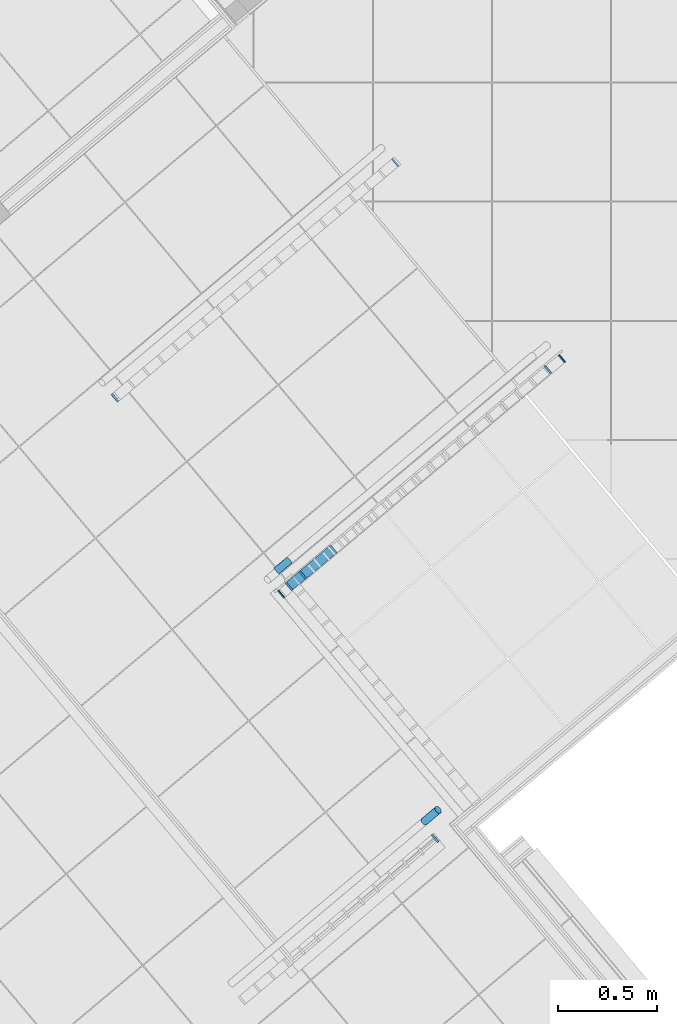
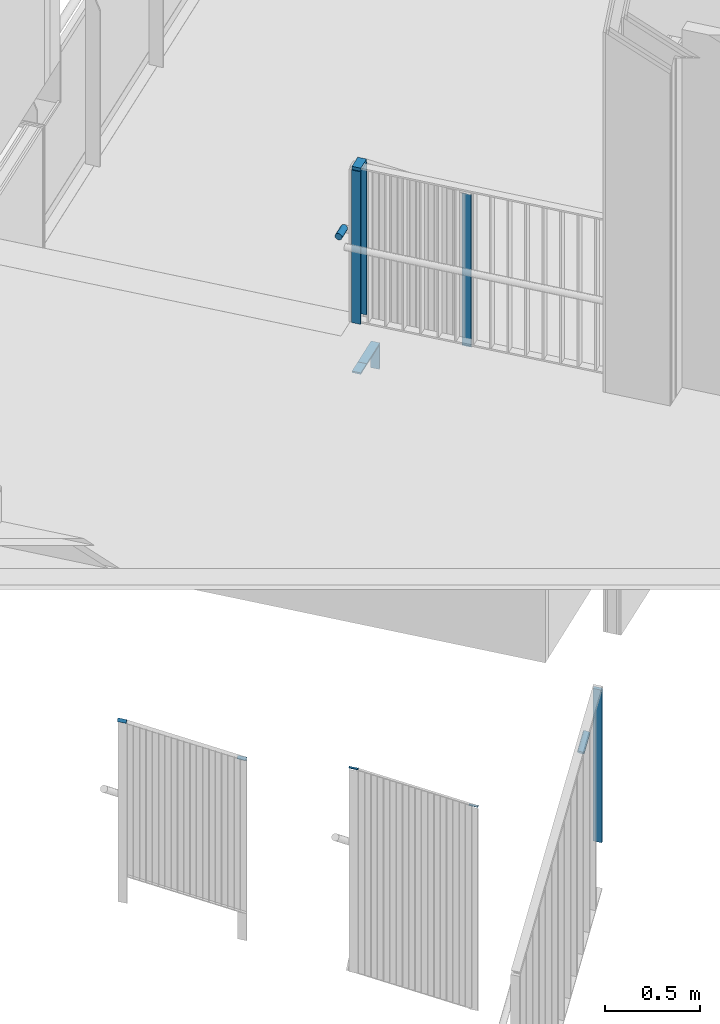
# One storey, part 35 of 321: 13 members, 4 elements without a shape of their own.
"""IFC2X3 building model written with IfcOpenShell, lengths in millimetres."""

from ifc_helpers import new_model, entity, si_unit, converted_unit, derived_unit, money_unit, direction, frame, origin_with_axes, place, context, subcontext, project, spatial, faceted_brep, material, type_object, element, aggregate, save


model = new_model("IFC2X3")

# Units and contexts
model_context = context("Model", 3, precision=0.01, world=origin_with_axes(), true_north=direction((0.0, 1.0)))
plan_context = context("Plan", 3, precision=0.01, world=origin_with_axes(), true_north=direction((0.0, 1.0)))
body_context = subcontext(model_context, "Body", "Model", "MODEL_VIEW")
ifc_project = project(units=[si_unit("LENGTHUNIT", "METRE", prefix="MILLI"), si_unit("AREAUNIT", "SQUARE_METRE"), si_unit("VOLUMEUNIT", "CUBIC_METRE"), converted_unit("PLANEANGLEUNIT", "DEGREE", entity("IfcPlaneAngleMeasure", 0.0174532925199), si_unit("PLANEANGLEUNIT", "RADIAN"), dimensions=[0, 0, 0, 0, 0, 0, 0]), money_unit("EUR"), converted_unit("TIMEUNIT", "Year", entity("IfcTimeMeasure", 31556926.0), si_unit("TIMEUNIT", "SECOND"), dimensions=[0, 0, 1, 0, 0, 0, 0]), si_unit("MASSUNIT", "GRAM", prefix="KILO"), si_unit("THERMODYNAMICTEMPERATUREUNIT", "DEGREE_CELSIUS"), si_unit("LUMINOUSINTENSITYUNIT", "LUMEN"), si_unit("ENERGYUNIT", "JOULE", prefix="MEGA"), derived_unit("THERMALCONDUCTANCEUNIT", [(si_unit("POWERUNIT", "WATT"), 1), (si_unit("LENGTHUNIT", "METRE"), -1), (si_unit("THERMODYNAMICTEMPERATUREUNIT", "KELVIN"), -1)]), derived_unit("SPECIFICHEATCAPACITYUNIT", [(si_unit("ENERGYUNIT", "JOULE"), 1), (si_unit("MASSUNIT", "GRAM", prefix="KILO"), -1), (si_unit("THERMODYNAMICTEMPERATUREUNIT", "KELVIN"), -1)]), derived_unit("MASSDENSITYUNIT", [(si_unit("MASSUNIT", "GRAM", prefix="KILO"), 1), (si_unit("VOLUMEUNIT", "CUBIC_METRE"), -1)])], contexts=[model_context, plan_context])

# Site, building, storey
site_placement = place(None, origin_with_axes())
site = spatial("IfcSite", under=ifc_project, at=site_placement, Name="Fortuinstraat Woensdrecht", CompositionType="ELEMENT")
building_placement = place(site_placement, origin_with_axes())
building = spatial("IfcBuilding", under=site, at=building_placement, Name="IKC Fortuna", CompositionType="ELEMENT")
storey_placement = place(building_placement, frame((0.0, 0.0, 4000.0), z_axis=(0.0, 0.0, 1.0), x_axis=(1.0, 0.0, 0.0)))
storey = spatial("IfcBuildingStorey", under=building, at=storey_placement, Name="01 eerste verdieping", CompositionType="ELEMENT", Elevation=4000.0)

# Railing, members
railing_type = type_object("IfcRailingType", Name="Railing Type", PredefinedType="NOTDEFINED")
railing_1_placement = place(storey_placement, frame((21000.2167355, 3077.07880334, -3818.75), z_axis=(0.0, 0.0, 1.0), x_axis=(1.0, 0.0, 0.0)))
railing_1 = element("IfcRailing", 1, at=railing_1_placement, inside=storey, type_object=railing_type, Name="34_Reling_Trapleuning", PredefinedType="NOTDEFINED")
ifc_material = material(Name="Metaal - RVS")
member_type_1 = type_object("IfcMemberType", Name="IfcMember", PredefinedType="USERDEFINED")
member_1_placement = place(railing_1_placement, origin_with_axes())
member_1 = element("IfcMember", 2, at=member_1_placement, type_object=member_type_1, material=ifc_material, Name="_Reling - regel_", context=body_context, shape_type="Brep", body=[
    faceted_brep([(38.5672565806, -45.9626665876, 1000.0), (33.8258089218, -49.9412135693, 992.145712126), (36.8341757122, -47.416894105, 989.050951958), (41.5756233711, -43.4383471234, 996.905239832), (6.42787609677, -7.66044443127, 1000.0), (1.68642843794, -11.6389914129, 992.145712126), (4.69479522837, -9.11467194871, 989.050951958), (9.4362428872, -5.13612496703, 996.905239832)], [[[0, 1, 2, 3]], [[0, 4, 5, 1]], [[1, 5, 6, 2]], [[3, 2, 6, 7]], [[4, 0, 3, 7]], [[5, 4, 7, 6]]]),
])
member_2_placement = place(railing_1_placement, origin_with_axes())
member_2 = element("IfcMember", 3, at=member_2_placement, type_object=member_type_1, material=ifc_material, Name="_Reling - regel_", context=body_context, shape_type="Brep", body=[
    faceted_brep([(-1403.07363658, -1190.37264384, 2449.97915543), (-1407.81508424, -1194.35119082, 2442.12486756), (-1410.82345103, -1196.87551028, 2445.21962772), (-1406.08200338, -1192.8969633, 2453.0739156), (-1370.9342561, -1228.67486599, 2449.97915543), (-1375.67570376, -1232.65341298, 2442.12486756), (-1378.68407055, -1235.17773244, 2445.21962772), (-1373.94262289, -1231.19918546, 2453.0739156)], [[[0, 1, 2, 3]], [[0, 4, 5, 1]], [[1, 5, 6, 2]], [[3, 2, 6, 7]], [[4, 0, 3, 7]], [[5, 4, 7, 6]]]),
])
aggregate(railing_1, [member_1, member_2])

# Railing, member
railing_2_placement = place(storey_placement, frame((19473.0503372, -83.5297075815, -2367.85714286), z_axis=(0.0, 0.0, 1.0), x_axis=(1.0, 0.0, 0.0)))
railing_2 = element("IfcRailing", 4, at=railing_2_placement, inside=storey, type_object=railing_type, Name="34_Reling_Trapleuning", PredefinedType="NOTDEFINED")
member_3_placement = place(railing_2_placement, origin_with_axes())
member_3 = element("IfcMember", 5, at=member_3_placement, type_object=member_type_1, material=ifc_material, Name="_Reling - regel_", context=body_context, shape_type="Brep", body=[
    faceted_brep([(842.799217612, 818.152132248, 1538.19212525), (841.342847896, 816.533451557, 1540.91474488), (911.473008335, 875.379643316, 1613.41427213), (912.929378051, 876.998324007, 1610.6916525), (844.646202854, 819.305295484, 1535.46950562), (846.827683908, 819.957902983, 1532.82961141), (849.277377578, 820.090125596, 1530.35265446), (851.92085116, 819.697945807, 1528.11389587), (854.677784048, 818.7932798, 1526.18135918), (857.46440823, 817.403615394, 1524.61376354), (860.196053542, 815.571176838, 1523.45873955), (862.789720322, 813.351641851, 1522.75138203), (865.166601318, 810.81244988, 1522.51318368), (867.254476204, 808.030752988, 1522.75138203), (868.989905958, 805.091071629, 1523.45873955), (870.320160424, 802.082726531, 1524.61376354), (871.204820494, 799.09712474, 1526.18135918), (871.61700622, 796.224982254, 1528.11389587), (871.544193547, 793.553567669, 1530.35265446), (870.98859485, 791.164050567, 1532.82961141), (869.967091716, 789.129035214, 1535.46950562), (868.510722, 787.510354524, 1538.19212525), (866.663736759, 786.357191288, 1540.91474488), (864.482255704, 785.704583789, 1543.5546391), (862.032562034, 785.572361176, 1546.03159604), (859.389088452, 785.964540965, 1548.27035463), (856.632155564, 786.869206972, 1550.20289132), (853.845531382, 788.258871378, 1551.77048696), (851.11388607, 790.091309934, 1552.92551095), (848.52021929, 792.310844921, 1553.63286847), (846.143338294, 794.850036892, 1553.87106683), (844.055463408, 797.631733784, 1553.63286847), (842.320033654, 800.571415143, 1552.92551095), (840.989779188, 803.579760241, 1551.77048696), (840.105119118, 806.565362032, 1550.20289132), (839.692933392, 809.437504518, 1548.27035463), (839.765746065, 812.108919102, 1546.03159604), (840.321344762, 814.498436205, 1543.5546391), (910.451505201, 873.344627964, 1616.05416634), (909.895906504, 870.955110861, 1618.53112328), (909.823093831, 868.283696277, 1620.76988187), (910.235279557, 865.411553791, 1622.70241856), (911.119939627, 862.425951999, 1624.2700142), (912.450194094, 859.417606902, 1625.4250382), (914.185623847, 856.477925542, 1626.13239572), (916.273498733, 853.696228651, 1626.37059407), (918.650379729, 851.15703668, 1626.13239572), (921.244046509, 848.937501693, 1625.4250382), (923.975691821, 847.105063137, 1624.2700142), (926.762316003, 845.715398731, 1622.70241856), (929.519248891, 844.810732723, 1620.76988187), (932.162722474, 844.418552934, 1618.53112328), (934.612416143, 844.550775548, 1616.05416634), (936.793897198, 845.203383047, 1613.41427213), (938.640882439, 846.356546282, 1610.6916525), (940.097252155, 847.975226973, 1607.96903286), (941.118755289, 850.010242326, 1605.32913865), (941.674353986, 852.399759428, 1602.85218171), (941.747166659, 855.071174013, 1600.61342312), (941.334980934, 857.943316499, 1598.68088643), (940.450320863, 860.92891829, 1597.11329079), (939.120066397, 863.937263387, 1595.9582668), (937.384636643, 866.876944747, 1595.25090928), (935.296761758, 869.658641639, 1595.01271092), (932.919880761, 872.19783361, 1595.25090928), (930.326213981, 874.417368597, 1595.9582668), (927.594568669, 876.249807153, 1597.11329079), (924.807944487, 877.639471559, 1598.68088643), (922.051011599, 878.544137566, 1600.61342312), (919.407538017, 878.936317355, 1602.85218171), (916.957844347, 878.804094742, 1605.32913865), (914.776363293, 878.151487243, 1607.96903286)], [[[0, 1, 2, 3]], [[0, 4, 5, 6, 7, 8, 9, 10, 11, 12, 13, 14, 15, 16, 17, 18, 19, 20, 21, 22, 23, 24, 25, 26, 27, 28, 29, 30, 31, 32, 33, 34, 35, 36, 37, 1]], [[1, 37, 38, 2]], [[3, 2, 38, 39, 40, 41, 42, 43, 44, 45, 46, 47, 48, 49, 50, 51, 52, 53, 54, 55, 56, 57, 58, 59, 60, 61, 62, 63, 64, 65, 66, 67, 68, 69, 70, 71]], [[4, 0, 3, 71]], [[5, 4, 71, 70]], [[6, 5, 70, 69]], [[7, 6, 69, 68]], [[8, 7, 68, 67]], [[9, 8, 67, 66]], [[10, 9, 66, 65]], [[11, 10, 65, 64]], [[12, 11, 64, 63]], [[13, 12, 63, 62]], [[14, 13, 62, 61]], [[15, 14, 61, 60]], [[16, 15, 60, 59]], [[17, 16, 59, 58]], [[18, 17, 58, 57]], [[19, 18, 57, 56]], [[20, 19, 56, 55]], [[21, 20, 55, 54]], [[22, 21, 54, 53]], [[23, 22, 53, 52]], [[24, 23, 52, 51]], [[25, 24, 51, 50]], [[26, 25, 50, 49]], [[27, 26, 49, 48]], [[28, 27, 48, 47]], [[29, 28, 47, 46]], [[30, 29, 46, 45]], [[31, 30, 45, 44]], [[32, 31, 44, 43]], [[33, 32, 43, 42]], [[34, 33, 42, 41]], [[35, 34, 41, 40]], [[36, 35, 40, 39]], [[37, 36, 39, 38]]]),
])

# Railing, members
railing_3_placement = place(storey_placement, frame((20190.3043408, 4042.29479627, -3818.75), z_axis=(0.0, 0.0, 1.0), x_axis=(1.0, 0.0, 0.0)))
railing_3 = element("IfcRailing", 6, at=railing_3_placement, inside=storey, type_object=railing_type, Name="34_Reling_Trapleuning", PredefinedType="NOTDEFINED")
member_4_placement = place(railing_3_placement, origin_with_axes())
member_4 = element("IfcMember", 7, at=member_4_placement, type_object=member_type_1, material=ifc_material, Name="_Reling - regel_", context=body_context, shape_type="Brep", body=[
    faceted_brep([(16.0696902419, -19.1511110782, 1000.0), (6.58679492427, -27.1082050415, 984.291424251), (9.5951617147, -24.5838855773, 981.196664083), (19.0780570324, -16.6267916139, 996.905239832), (-16.0696902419, 19.1511110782, 1000.0), (-25.5525855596, 11.1940171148, 984.291424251), (-22.5442187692, 13.7183365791, 981.196664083), (-13.0613234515, 21.6754305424, 996.905239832)], [[[0, 1, 2, 3]], [[0, 4, 5, 1]], [[1, 5, 6, 2]], [[3, 2, 6, 7]], [[4, 0, 3, 7]], [[5, 4, 7, 6]]]),
])
member_5_placement = place(railing_3_placement, origin_with_axes())
member_5 = element("IfcMember", 8, at=member_5_placement, type_object=member_type_1, material=ifc_material, Name="_Reling - regel_", context=body_context, shape_type="Brep", body=[
    faceted_brep([(-1425.57120292, -1163.56108833, 2449.97915543), (-1435.05409824, -1171.51818229, 2434.27057968), (-1438.06246503, -1174.04250176, 2437.36533985), (-1428.57956971, -1166.08540779, 2453.0739156), (-1393.43182244, -1201.86331048, 2449.97915543), (-1402.91471776, -1209.82040445, 2434.27057968), (-1405.92308455, -1212.34472391, 2437.36533985), (-1396.44018923, -1204.38762995, 2453.0739156)], [[[0, 1, 2, 3]], [[0, 4, 5, 1]], [[1, 5, 6, 2]], [[3, 2, 6, 7]], [[4, 0, 3, 7]], [[5, 4, 7, 6]]]),
])
aggregate(railing_3, [member_4, member_5])

railing_4_placement = place(storey_placement, frame((21162.521342, 3493.11146248, 181.25), z_axis=(0.0, 0.0, 1.0), x_axis=(1.0, 0.0, 0.0)))
railing_4 = element("IfcRailing", 9, at=railing_4_placement, inside=storey, type_object=railing_type, Name="34_Reling_Trapleuning", PredefinedType="NOTDEFINED")
member_6_placement = place(railing_4_placement, origin_with_axes())
member_6 = element("IfcMember", 10, at=member_6_placement, type_object=member_type_1, material=ifc_material, Name="_Reling - regel_", context=body_context, shape_type="Brep", body=[
    faceted_brep([(-1303.97673528, -1381.25948464, 793.567036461), (-1311.63717971, -1387.68736073, 788.715572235), (-1311.63717971, -1387.68736073, 943.75), (-1461.01584612, -1513.03094462, 943.75), (-1461.01584612, -1513.03094462, 953.75), (-1303.97673528, -1381.25948464, 953.75), (-1271.8373548, -1419.56170679, 793.567036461), (-1279.49779923, -1425.98958289, 788.715572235), (-1279.49779923, -1425.98958289, 943.75), (-1428.87646564, -1551.33316678, 943.75), (-1428.87646564, -1551.33316678, 953.75), (-1271.8373548, -1419.56170679, 953.75)], [[[0, 1, 2, 3, 4, 5]], [[0, 6, 7, 1]], [[1, 7, 8, 2]], [[2, 8, 9, 3]], [[4, 3, 9, 10]], [[11, 5, 4, 10]], [[6, 0, 5, 11]], [[7, 6, 11, 10, 9, 8]]]),
])
member_7_placement = place(railing_4_placement, frame((-1543.69692506, -1484.50306077, 1774.02864045), z_axis=(0.0, 0.0, 1.0), x_axis=(1.0, 0.0, 0.0)))
member_7 = element("IfcMember", 11, at=member_7_placement, type_object=member_type_1, material=ifc_material, Name="_Reling - regel_Handregel-x", context=body_context, shape_type="Brep", body=[
    faceted_brep([(42.0164898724, 9.1478753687, 24.72135955), (42.74347456, 10.1545293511, 28.1943231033), (-21.8115637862, -44.0135795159, 28.1943231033), (-21.6162560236, -44.2463382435, 24.72135955), (40.8988896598, 8.60673884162, 21.2483959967), (39.4246316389, 8.54756192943, 17.8809566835), (37.6385103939, 8.97214269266, 14.72135955), (35.5947963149, 9.86758045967, 11.8656073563), (33.35558662, 11.206667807, 9.40047068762), (30.9889185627, 12.9487172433, 7.40085147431), (28.5667021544, 15.0407974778, 5.92750713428), (26.1625352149, 17.4193417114, 5.02520448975), (23.8494671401, 20.012079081, 4.72135955), (21.6977793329, 22.7402305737, 5.02520448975), (19.7728497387, 25.520902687, 5.92750713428), (18.133166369, 28.2696061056, 7.40085147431), (16.8285501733, 30.9028228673, 9.40047068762), (15.8986412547, 33.340544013, 11.8656073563), (15.3716944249, 35.5087006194, 14.72135955), (15.2637206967, 37.3414143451, 17.8809566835), (15.5780007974, 38.782999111, 21.2483959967), (16.304985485, 39.7896530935, 24.72135955), (17.4225856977, 40.3307896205, 28.1943231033), (18.8968437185, 40.3899665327, 31.5617624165), (20.6829649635, 39.9653857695, 34.72135955), (22.7266790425, 39.0699480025, 37.5771117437), (24.9658887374, 37.7308606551, 40.0422484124), (27.3325567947, 35.9888112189, 42.0418676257), (29.754773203, 33.8967309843, 43.5152119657), (32.1589401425, 31.5181867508, 44.4175146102), (34.4720082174, 28.9254493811, 44.72135955), (36.6236960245, 26.1972978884, 44.4175146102), (38.5486256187, 23.4166257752, 43.5152119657), (40.1883089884, 20.6679223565, 42.0418676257), (41.4929251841, 18.0347055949, 40.0422484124), (42.4228341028, 15.5969844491, 37.5771117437), (42.9497809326, 13.4288278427, 34.72135955), (43.0577546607, 11.596114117, 31.5617624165), (-22.3915527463, -43.322375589, 31.5617624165), (-23.3386002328, -42.1937283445, 34.72135955), (-24.6239306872, -40.6619311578, 37.5771117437), (-26.208489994, -38.7735269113, 40.0422484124), (-28.0441321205, -36.5858938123, 42.0418676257), (-30.0750820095, -34.1655019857, 43.5152119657), (-32.2396302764, -31.5858938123, 44.4175146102), (-34.4720082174, -28.9254493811, 44.72135955), (-36.7043861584, -26.26500495, 44.4175146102), (-38.8689344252, -23.6853967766, 43.5152119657), (-40.8998843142, -21.26500495, 42.0418676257), (-42.7355264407, -19.077371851, 40.0422484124), (-44.3200857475, -17.1889676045, 37.5771117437), (-45.6054162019, -15.6571704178, 34.72135955), (-46.5524636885, -14.5285231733, 31.5617624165), (-47.1324526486, -13.8373192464, 28.1943231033), (-47.3277604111, -13.6045605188, 24.72135955), (-47.1324526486, -13.8373192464, 21.2483959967), (-46.5524636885, -14.5285231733, 17.8809566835), (-45.6054162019, -15.6571704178, 14.72135955), (-44.3200857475, -17.1889676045, 11.8656073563), (-42.7355264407, -19.077371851, 9.40047068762), (-40.8998843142, -21.26500495, 7.40085147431), (-38.8689344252, -23.6853967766, 5.92750713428), (-36.7043861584, -26.26500495, 5.02520448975), (-34.4720082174, -28.9254493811, 4.72135955), (-32.2396302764, -31.5858938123, 5.02520448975), (-30.0750820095, -34.1655019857, 5.92750713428), (-28.0441321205, -36.5858938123, 7.40085147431), (-26.208489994, -38.7735269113, 9.40047068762), (-24.6239306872, -40.6619311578, 11.8656073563), (-23.3386002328, -42.1937283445, 14.72135955), (-22.3915527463, -43.322375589, 17.8809566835), (-21.8115637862, -44.0135795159, 21.2483959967)], [[[0, 1, 2, 3]], [[0, 4, 5, 6, 7, 8, 9, 10, 11, 12, 13, 14, 15, 16, 17, 18, 19, 20, 21, 22, 23, 24, 25, 26, 27, 28, 29, 30, 31, 32, 33, 34, 35, 36, 37, 1]], [[1, 37, 38, 2]], [[3, 2, 38, 39, 40, 41, 42, 43, 44, 45, 46, 47, 48, 49, 50, 51, 52, 53, 54, 55, 56, 57, 58, 59, 60, 61, 62, 63, 64, 65, 66, 67, 68, 69, 70, 71]], [[4, 0, 3, 71]], [[5, 4, 71, 70]], [[6, 5, 70, 69]], [[7, 6, 69, 68]], [[8, 7, 68, 67]], [[9, 8, 67, 66]], [[10, 9, 66, 65]], [[11, 10, 65, 64]], [[12, 11, 64, 63]], [[13, 12, 63, 62]], [[14, 13, 62, 61]], [[15, 14, 61, 60]], [[16, 15, 60, 59]], [[17, 16, 59, 58]], [[18, 17, 58, 57]], [[19, 18, 57, 56]], [[20, 19, 56, 55]], [[21, 20, 55, 54]], [[22, 21, 54, 53]], [[23, 22, 53, 52]], [[24, 23, 52, 51]], [[25, 24, 51, 50]], [[26, 25, 50, 49]], [[27, 26, 49, 48]], [[28, 27, 48, 47]], [[29, 28, 47, 46]], [[30, 29, 46, 45]], [[31, 30, 45, 44]], [[32, 31, 44, 43]], [[33, 32, 43, 42]], [[34, 33, 42, 41]], [[35, 34, 41, 40]], [[36, 35, 40, 39]], [[37, 36, 39, 38]]]),
])
member_8_placement = place(railing_4_placement, frame((-1479.4181641, -1561.10750508, 2236.73437881), z_axis=(0.0, 0.0, 1.0), x_axis=(1.0, 0.0, 0.0)))
member_8 = element("IfcMember", 12, at=member_8_placement, type_object=member_type_1, material=ifc_material, Name="_Reling - regel_", context=body_context, shape_type="Brep", body=[
    faceted_brep([(18.4023179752, 48.0765604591, 32.0156211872), (13.0910474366, 43.619875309, 12.0156211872), (-50.5416984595, -9.77433830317, 12.0156211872), (-50.5416984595, -9.77433830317, 32.0156211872), (50.5416984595, 9.77433830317, 32.0156211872), (45.2304279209, 5.3176531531, 12.0156211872), (-18.4023179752, -48.0765604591, 12.0156211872), (-18.4023179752, -48.0765604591, 32.0156211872)], [[[0, 1, 2, 3]], [[0, 4, 5, 1]], [[1, 5, 6, 2]], [[3, 2, 6, 7]], [[4, 0, 3, 7]], [[5, 4, 7, 6]]]),
])
member_9_placement = place(railing_4_placement, frame((-1479.4181641, -1561.10750508, 923.254902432), z_axis=(0.0, 0.0, 1.0), x_axis=(1.0, 0.0, 0.0)))
member_9 = element("IfcMember", 13, at=member_9_placement, type_object=member_type_1, material=ifc_material, Name="_Reling - regel_Regel-x", context=body_context, shape_type="Brep", body=[
    faceted_brep([(18.4023179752, 48.0765604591, 30.495097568), (18.4023179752, 48.0765604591, 20.495097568), (-50.5416984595, -9.77433830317, 20.495097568), (-50.5416984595, -9.77433830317, 30.495097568), (50.5416984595, 9.77433830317, 30.495097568), (50.5416984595, 9.77433830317, 20.495097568), (-18.4023179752, -48.0765604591, 20.495097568), (-18.4023179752, -48.0765604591, 30.495097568)], [[[0, 1, 2, 3]], [[0, 4, 5, 1]], [[1, 5, 6, 2]], [[3, 2, 6, 7]], [[4, 0, 3, 7]], [[5, 4, 7, 6]]]),
])

# Member
member_type_2 = type_object("IfcMemberType", Name="IfcMember", PredefinedType="POST")
member_10_placement = place(railing_2_placement, frame((910.422099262, 718.24559258, 1003.87106683), z_axis=(0.0, 0.0, 1.0), x_axis=(1.0, 0.0, 0.0)))
member_10 = element("IfcMember", 14, at=member_10_placement, type_object=member_type_2, material=ifc_material, Name="_Reling - baluster_", ObjectType="POST", context=body_context, shape_type="Brep", body=[
    faceted_brep([(19.8999124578, -15.9371730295, 3.95962732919), (-12.2394680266, 22.3650491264, 3.95962732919), (-12.2394680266, 22.3650491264, 983.959627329), (19.8999124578, -15.9371730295, 983.959627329), (12.2394680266, -22.3650491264, -3.95962732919), (-19.8999124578, 15.9371730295, -3.95962732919), (-19.8999124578, 15.9371730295, 976.040372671), (12.2394680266, -22.3650491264, 976.040372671)], [[[0, 1, 2, 3]], [[0, 4, 5, 1]], [[1, 5, 6, 2]], [[3, 2, 6, 7]], [[4, 0, 3, 7]], [[5, 4, 7, 6]]]),
])

aggregate(railing_2, [member_10, member_3])

member_11_placement = place(railing_4_placement, frame((-211.614602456, -497.294004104, 0.0), z_axis=(0.0, 0.0, 1.0), x_axis=(1.0, 0.0, 0.0)))
member_11 = element("IfcMember", 15, at=member_11_placement, type_object=member_type_2, material=ifc_material, Name="_Reling - baluster_", ObjectType="POST", context=body_context, shape_type="Brep", body=[
    faceted_brep([(-19.8999124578, 15.9371730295, 3.9402173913), (12.2394680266, -22.3650491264, 3.9402173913), (12.2394680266, -22.3650491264, 983.940217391), (-19.8999124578, 15.9371730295, 983.940217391), (-12.2394680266, 22.3650491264, -3.9402173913), (19.8999124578, -15.9371730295, -3.9402173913), (19.8999124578, -15.9371730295, 976.059782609), (-12.2394680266, 22.3650491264, 976.059782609)], [[[0, 1, 2, 3]], [[0, 4, 5, 1]], [[1, 5, 6, 2]], [[3, 2, 6, 7]], [[4, 0, 3, 7]], [[5, 4, 7, 6]]]),
])

member_12_placement = place(railing_4_placement, frame((-1444.94615588, -1532.1820557, 1268.75), z_axis=(0.0, 0.0, 1.0), x_axis=(1.0, 0.0, 0.0)))
member_12 = element("IfcMember", 16, at=member_12_placement, type_object=member_type_2, material=ifc_material, Name="_Reling - baluster_", ObjectType="POST", context=body_context, shape_type="Brep", body=[
    faceted_brep([(-19.8999124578, 15.9371730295, 1.73334281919), (12.2394680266, -22.3650491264, 1.73334281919), (12.2394680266, -22.3650491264, 981.733342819), (-19.8999124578, 15.9371730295, 981.733342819), (-12.2394680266, 22.3650491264, -1.73334281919), (19.8999124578, -15.9371730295, -1.73334281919), (19.8999124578, -15.9371730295, 978.266657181), (-12.2394680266, 22.3650491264, 978.266657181)], [[[0, 1, 2, 3]], [[0, 4, 5, 1]], [[1, 5, 6, 2]], [[3, 2, 6, 7]], [[4, 0, 3, 7]], [[5, 4, 7, 6]]]),
])

member_13_placement = place(railing_4_placement, frame((-1513.89017231, -1590.03295446, 1268.75), z_axis=(0.0, 0.0, 1.0), x_axis=(1.0, 0.0, 0.0)))
member_13 = element("IfcMember", 17, at=member_13_placement, type_object=member_type_2, material=ifc_material, Name="_Reling - baluster_", ObjectType="POST", context=body_context, shape_type="Brep", body=[
    faceted_brep([(-19.8999124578, 15.9371730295, 0.0), (12.2394680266, -22.3650491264, 0.0), (12.2394680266, -22.3650491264, 980.0), (-19.8999124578, 15.9371730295, 980.0), (-12.2394680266, 22.3650491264, 0.0), (19.8999124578, -15.9371730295, 0.0), (19.8999124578, -15.9371730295, 980.0), (-12.2394680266, 22.3650491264, 980.0)], [[[0, 1, 2, 3]], [[0, 4, 5, 1]], [[1, 5, 6, 2]], [[3, 2, 6, 7]], [[4, 0, 3, 7]], [[5, 4, 7, 6]]]),
])

aggregate(railing_4, [member_11, member_12, member_6, member_13, member_7, member_8, member_9])

save(model, "model.ifc")
